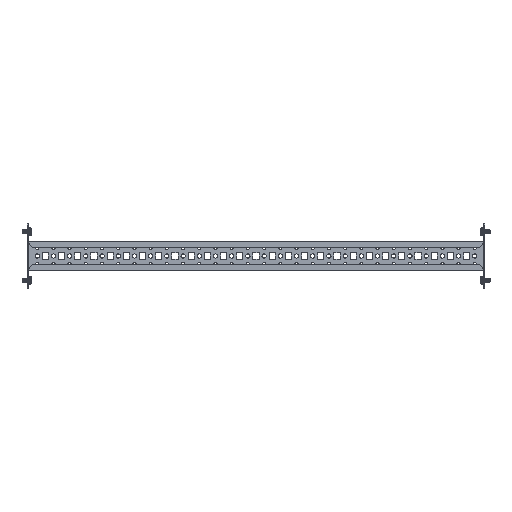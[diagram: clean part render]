
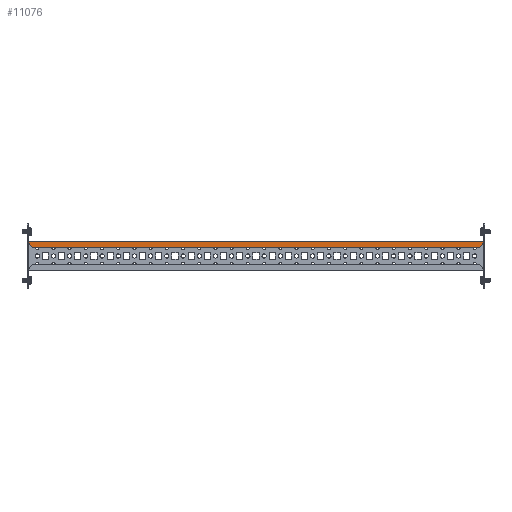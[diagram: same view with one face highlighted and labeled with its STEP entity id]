
A CAD part, front view. The second image highlights one B-rep face of the part: STEP entity #11076.
In plain terms, the highlighted planar face has unit normal (0, -1, 0).
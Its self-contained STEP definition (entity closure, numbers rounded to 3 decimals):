
#615 = LINE ( 'NONE', #7972, #18919 ) ;
#745 = CARTESIAN_POINT ( 'NONE',  ( 350., -94., 20. ) ) ;
#853 = ORIENTED_EDGE ( 'NONE', *, *, #12550, .T. ) ;
#1161 = DIRECTION ( 'NONE',  ( 0., 0., -1. ) ) ;
#1288 = DIRECTION ( 'NONE',  ( 0.707, 0., -0.707 ) ) ;
#2872 = DIRECTION ( 'NONE',  ( 1., 0., 0. ) ) ;
#2945 = EDGE_CURVE ( 'NONE', #6159, #20046, #16561, .T. ) ;
#3255 = EDGE_CURVE ( 'NONE', #16658, #24119, #15567, .T. ) ;
#3408 = CARTESIAN_POINT ( 'NONE',  ( 350., -94., 13.5 ) ) ;
#3554 = DIRECTION ( 'NONE',  ( 0., 0., 1. ) ) ;
#4100 = DIRECTION ( 'NONE',  ( 0., 0., 1. ) ) ;
#4312 = EDGE_LOOP ( 'NONE', ( #27135, #23580, #10274, #853, #8049, #5776, #30135, #18300 ) ) ;
#4539 = VECTOR ( 'NONE', #3554, 1000. ) ;
#5776 = ORIENTED_EDGE ( 'NONE', *, *, #29144, .T. ) ;
#5962 = CARTESIAN_POINT ( 'NONE',  ( -350., -94., 21. ) ) ;
#6159 = VERTEX_POINT ( 'NONE', #18103 ) ;
#6828 = LINE ( 'NONE', #21700, #11648 ) ;
#7972 = CARTESIAN_POINT ( 'NONE',  ( -350., -94., 13.5 ) ) ;
#8049 = ORIENTED_EDGE ( 'NONE', *, *, #3255, .F. ) ;
#9014 = EDGE_CURVE ( 'NONE', #17322, #12581, #615, .T. ) ;
#9359 = DIRECTION ( 'NONE',  ( -1., 0., 0. ) ) ;
#10274 = ORIENTED_EDGE ( 'NONE', *, *, #9014, .F. ) ;
#10851 = LINE ( 'NONE', #20609, #28946 ) ;
#11076 = ADVANCED_FACE ( 'NONE', ( #19829 ), #12145, .F. ) ;
#11181 = VERTEX_POINT ( 'NONE', #12929 ) ;
#11264 = DIRECTION ( 'NONE',  ( 0., 0., 1. ) ) ;
#11648 = VECTOR ( 'NONE', #4100, 1000. ) ;
#11702 = VECTOR ( 'NONE', #1288, 1000. ) ;
#11841 = VERTEX_POINT ( 'NONE', #26019 ) ;
#12145 = PLANE ( 'NONE',  #12653 ) ;
#12550 = EDGE_CURVE ( 'NONE', #17322, #24119, #10851, .T. ) ;
#12581 = VERTEX_POINT ( 'NONE', #12594 ) ;
#12594 = CARTESIAN_POINT ( 'NONE',  ( -345., -94., 13.5 ) ) ;
#12653 = AXIS2_PLACEMENT_3D ( 'NONE', #14876, #29596, #2872 ) ;
#12929 = CARTESIAN_POINT ( 'NONE',  ( -350., -94., 20. ) ) ;
#13416 = VECTOR ( 'NONE', #1161, 1000. ) ;
#14876 = CARTESIAN_POINT ( 'NONE',  ( 0., -94., 0. ) ) ;
#15567 = LINE ( 'NONE', #3408, #13416 ) ;
#15897 = CARTESIAN_POINT ( 'NONE',  ( 350., -94., 20. ) ) ;
#15946 = EDGE_CURVE ( 'NONE', #11841, #12581, #23209, .T. ) ;
#16561 = LINE ( 'NONE', #28560, #30859 ) ;
#16565 = CARTESIAN_POINT ( 'NONE',  ( -350., -94., 23. ) ) ;
#16658 = VERTEX_POINT ( 'NONE', #745 ) ;
#17322 = VERTEX_POINT ( 'NONE', #30066 ) ;
#18103 = CARTESIAN_POINT ( 'NONE',  ( 350., -94., 23. ) ) ;
#18300 = ORIENTED_EDGE ( 'NONE', *, *, #30631, .F. ) ;
#18919 = VECTOR ( 'NONE', #30202, 1000. ) ;
#19829 = FACE_OUTER_BOUND ( 'NONE', #4312, .T. ) ;
#20046 = VERTEX_POINT ( 'NONE', #16565 ) ;
#20609 = CARTESIAN_POINT ( 'NONE',  ( 350., -94., 18.5 ) ) ;
#20879 = CARTESIAN_POINT ( 'NONE',  ( 350., -94., 18.5 ) ) ;
#21700 = CARTESIAN_POINT ( 'NONE',  ( -350., -94., 0. ) ) ;
#23209 = LINE ( 'NONE', #23522, #11702 ) ;
#23268 = LINE ( 'NONE', #15897, #24406 ) ;
#23522 = CARTESIAN_POINT ( 'NONE',  ( -345., -94., 13.5 ) ) ;
#23580 = ORIENTED_EDGE ( 'NONE', *, *, #15946, .T. ) ;
#24119 = VERTEX_POINT ( 'NONE', #20879 ) ;
#24406 = VECTOR ( 'NONE', #11264, 1000. ) ;
#26019 = CARTESIAN_POINT ( 'NONE',  ( -350., -94., 18.5 ) ) ;
#27135 = ORIENTED_EDGE ( 'NONE', *, *, #29692, .F. ) ;
#27874 = LINE ( 'NONE', #5962, #4539 ) ;
#28560 = CARTESIAN_POINT ( 'NONE',  ( 0., -94., 23. ) ) ;
#28946 = VECTOR ( 'NONE', #30380, 1000. ) ;
#29144 = EDGE_CURVE ( 'NONE', #16658, #6159, #23268, .T. ) ;
#29596 = DIRECTION ( 'NONE',  ( 0., 1., 0. ) ) ;
#29692 = EDGE_CURVE ( 'NONE', #11841, #11181, #27874, .T. ) ;
#30066 = CARTESIAN_POINT ( 'NONE',  ( 345., -94., 13.5 ) ) ;
#30135 = ORIENTED_EDGE ( 'NONE', *, *, #2945, .T. ) ;
#30202 = DIRECTION ( 'NONE',  ( -1., 0., 0. ) ) ;
#30380 = DIRECTION ( 'NONE',  ( 0.707, 0., 0.707 ) ) ;
#30631 = EDGE_CURVE ( 'NONE', #11181, #20046, #6828, .T. ) ;
#30859 = VECTOR ( 'NONE', #9359, 1000. ) ;
